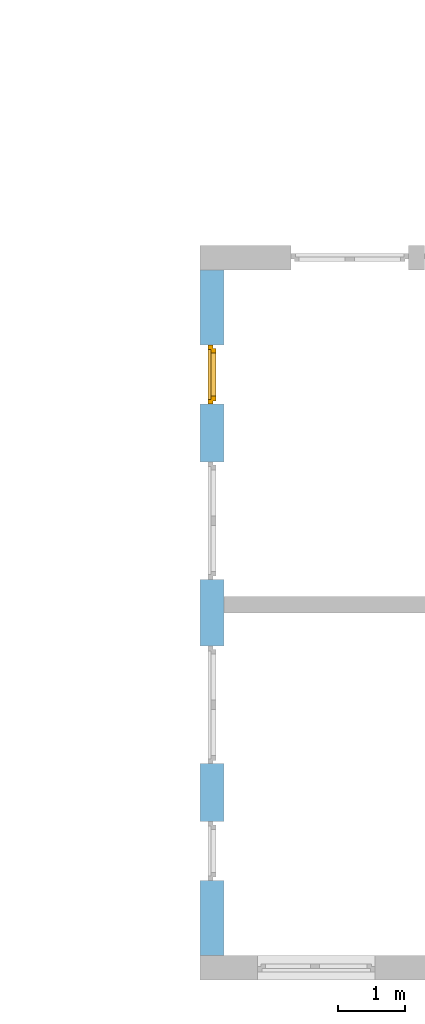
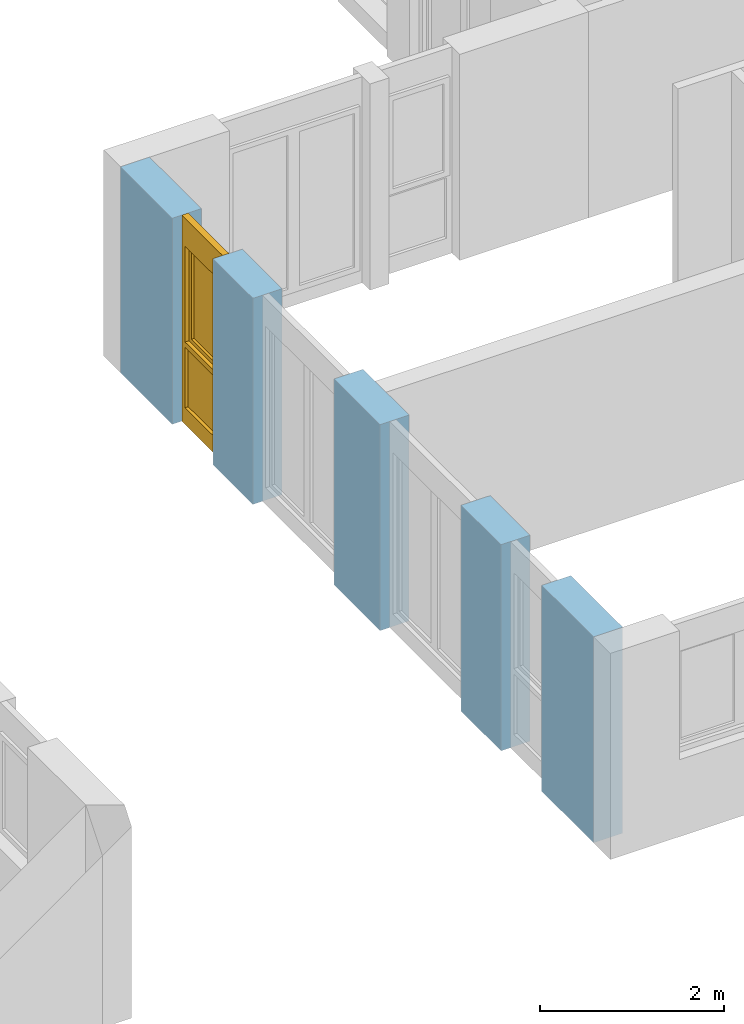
# One storey, part 16 of 41: 1 window, 4 openings, plus 1 element that does not belong to this part.
"""IFC2X3 building model written with IfcOpenShell, lengths in millimetres."""

from ifc_helpers import new_model, entity, si_unit, converted_unit, frame, frame_2d, origin, origin_with_axes, place, context, subcontext, project, spatial, rectangle, extrude, faceted_brep, material, layer, layer_set, layer_usage, type_object, element, fill, save


model = new_model("IFC2X3")

# Units and contexts
model_context = context("Model", 3, precision=1e-05, world=origin())
body_context = subcontext(model_context, "Body", "Model", "MODEL_VIEW")
ifc_project = project(units=[si_unit("LENGTHUNIT", "METRE", prefix="MILLI"), converted_unit("PLANEANGLEUNIT", "DEGREE", entity("IfcPlaneAngleMeasure", 0.0174532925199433), si_unit("PLANEANGLEUNIT", "RADIAN"), dimensions=[0, 0, 0, 0, 0, 0, 0]), si_unit("AREAUNIT", "SQUARE_METRE"), si_unit("VOLUMEUNIT", "CUBIC_METRE")], contexts=[model_context])

# Building, storey
building_placement = place(None, origin())
building = spatial("IfcBuilding", under=ifc_project, at=building_placement, Name="Gebäude", CompositionType="ELEMENT")
storey_placement = place(building_placement, frame((0.0, 0.0, -200.0), z_axis=(0.0, 0.0, 1.0), x_axis=(1.0, 0.0, 0.0)))
storey = spatial("IfcBuildingStorey", under=building, at=storey_placement, Name="EG.- Grundriss", CompositionType="ELEMENT", Elevation=-200.0)

# Wall, openings, window
ifc_material_1 = material(Name="Poroton")
ifc_layer = layer(ifc_material_1, 365.0)
ifc_layer_set = layer_set([ifc_layer])
ifc_layer_usage = layer_usage(ifc_layer_set, "AXIS2", "POSITIVE", 0.0)
wall_placement = place(storey_placement, frame((148357.7928067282, 135909.8877324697, 0.0), z_axis=(0.0, 0.0, 1.0), x_axis=(1.70032115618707e-14, -1.0, 0.0)))
wall = element("IfcWallStandardCase", 1, at=wall_placement, inside=storey, material=ifc_layer_usage, Name="<Unnamed Element>", context=body_context, shape_type="SweptSolid", body=[
    extrude(rectangle(XDim=10269.99999999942, YDim=365.0, at=frame_2d((5134.999999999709, 182.5), x_axis=(1.0, 0.0))), origin_with_axes(), (0.0, 0.0, 1.0), 2730.0),
])
opening_1_placement = place(wall_placement, frame((8259.999999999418, -9.487848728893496e-11, 0.0), z_axis=(0.0, 1.0, 0.0), x_axis=(0.0, 0.0, 1.0)))
element("IfcOpeningElement", 2, at=opening_1_placement, cuts=wall, Name="Fensteröffnung", ObjectType="Opening", context=body_context, shape_type="SweptSolid", body=[
    extrude(rectangle(XDim=2730.0, YDim=885.0, at=frame_2d((1365.0, 442.5), x_axis=(1.0, 0.0))), origin_with_axes(), (0.0, 0.0, 1.0), 365.0),
])
opening_2_placement = place(wall_placement, frame((5634.999999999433, -7.668859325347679e-11, 0.0), z_axis=(0.0, 1.0, 0.0), x_axis=(0.0, 0.0, 1.0)))
element("IfcOpeningElement", 3, at=opening_2_placement, cuts=wall, Name="Fensteröffnung", ObjectType="Opening", context=body_context, shape_type="SweptSolid", body=[
    extrude(rectangle(XDim=2730.0, YDim=1760.0, at=frame_2d((1365.0, 880.0), x_axis=(1.0, 0.0))), origin_with_axes(), (0.0, 0.0, 1.0), 365.0),
])
opening_3_placement = place(wall_placement, frame((2874.999999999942, -2.54658516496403e-11, 0.0), z_axis=(0.0, 1.0, 0.0), x_axis=(0.0, 0.0, 1.0)))
element("IfcOpeningElement", 4, at=opening_3_placement, cuts=wall, Name="Fensteröffnung", ObjectType="Opening", context=body_context, shape_type="SweptSolid", body=[
    extrude(rectangle(XDim=2730.0, YDim=1760.0, at=frame_2d((1365.0, 880.0), x_axis=(1.0, 0.0))), origin_with_axes(), (0.0, 0.0, 1.0), 365.0),
])
opening_4_placement = place(wall_placement, frame((1124.999999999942, -3.63797880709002e-12, 0.0), z_axis=(0.0, 1.0, 0.0), x_axis=(0.0, 0.0, 1.0)))
opening_4 = element("IfcOpeningElement", 5, at=opening_4_placement, cuts=wall, Name="Fensteröffnung", ObjectType="Opening", context=body_context, shape_type="SweptSolid", body=[
    extrude(rectangle(XDim=2730.0, YDim=885.0, at=frame_2d((1365.0, 442.5), x_axis=(1.0, 0.0))), origin_with_axes(), (0.0, 0.0, 1.0), 365.0),
])
ifc_material_2 = material()
window_style = type_object("IfcWindowStyle", Name="Fenster", ConstructionType="NOTDEFINED", OperationType="USERDEFINED", ParameterTakesPrecedence=False, Sizeable=False)
window_placement = place(opening_4_placement, frame((0.0, 0.0, 0.0), z_axis=(1.0, 0.0, 0.0), x_axis=(0.0, 1.0, 0.0)))
window = element("IfcWindow", 6, at=window_placement, inside=storey, type_object=window_style, material=ifc_material_2, Name="Fenster", OverallHeight=2730.0, OverallWidth=885.0, context=body_context, shape_type="Brep", body=[
    faceted_brep([(1.355358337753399e-12, 200.0000000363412, 2730.0), (1.355358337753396e-12, 200.000000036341, -2.449293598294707e-15), (69.9999999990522, 200.0000000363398, -2.449293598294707e-15), (69.9999999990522, 200.00000003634, 2730.0), (0.0, 120.0000000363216, 2.449293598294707e-15), (2.88912006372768e-27, 120.0000000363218, 2730.0), (69.99999999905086, 120.0000000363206, 2730.0), (69.99999999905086, 120.0000000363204, 2.449293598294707e-15), (1.355358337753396e-12, 200.000000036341, -2.449293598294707e-15), (1.355358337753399e-12, 200.0000000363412, 2730.0), (2.88912006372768e-27, 120.0000000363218, 2730.0), (0.0, 120.0000000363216, 2.449293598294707e-15), (69.9999999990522, 200.0000000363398, -2.449293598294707e-15), (1.355358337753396e-12, 200.000000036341, -2.449293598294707e-15), (0.0, 120.0000000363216, 2.449293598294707e-15), (69.99999999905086, 120.0000000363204, 2.449293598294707e-15), (69.9999999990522, 200.00000003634, 2730.0), (69.9999999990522, 200.0000000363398, -2.449293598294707e-15), (69.99999999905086, 120.0000000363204, 2.449293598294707e-15), (69.99999999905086, 120.0000000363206, 2730.0), (1.355358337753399e-12, 200.0000000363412, 2730.0), (69.9999999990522, 200.00000003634, 2730.0), (69.99999999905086, 120.0000000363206, 2730.0), (2.88912006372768e-27, 120.0000000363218, 2730.0)], [[[0, 1, 2, 3]], [[4, 5, 6, 7]], [[8, 9, 10, 11]], [[12, 13, 14, 15]], [[16, 17, 18, 19]], [[20, 21, 22, 23]]], orient=[[False], [False], [False], [False], [False], [False]]),
    faceted_brep([(815.0000000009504, 200.0000000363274, 2730.0), (815.0000000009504, 200.0000000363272, -2.449293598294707e-15), (885.0000000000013, 200.000000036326, -2.449293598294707e-15), (885.0000000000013, 200.0000000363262, 2730.0), (815.0000000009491, 120.0000000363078, 2.449293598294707e-15), (815.0000000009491, 120.0000000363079, 2730.0), (884.9999999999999, 120.0000000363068, 2730.0), (884.9999999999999, 120.0000000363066, 2.449293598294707e-15), (815.0000000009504, 200.0000000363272, -2.449293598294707e-15), (815.0000000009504, 200.0000000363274, 2730.0), (815.0000000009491, 120.0000000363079, 2730.0), (815.0000000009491, 120.0000000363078, 2.449293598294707e-15), (885.0000000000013, 200.000000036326, -2.449293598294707e-15), (815.0000000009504, 200.0000000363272, -2.449293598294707e-15), (815.0000000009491, 120.0000000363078, 2.449293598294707e-15), (884.9999999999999, 120.0000000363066, 2.449293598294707e-15), (885.0000000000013, 200.0000000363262, 2730.0), (885.0000000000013, 200.000000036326, -2.449293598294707e-15), (884.9999999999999, 120.0000000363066, 2.449293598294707e-15), (884.9999999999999, 120.0000000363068, 2730.0), (815.0000000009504, 200.0000000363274, 2730.0), (885.0000000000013, 200.0000000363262, 2730.0), (884.9999999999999, 120.0000000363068, 2730.0), (815.0000000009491, 120.0000000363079, 2730.0)], [[[0, 1, 2, 3]], [[4, 5, 6, 7]], [[8, 9, 10, 11]], [[12, 13, 14, 15]], [[16, 17, 18, 19]], [[20, 21, 22, 23]]], orient=[[False], [False], [False], [False], [False], [False]]),
    faceted_brep([(69.9999999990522, 200.0000000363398, 220.0), (69.9999999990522, 200.0000000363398, -2.449293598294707e-15), (815.0000000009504, 200.0000000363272, -2.449293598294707e-15), (815.0000000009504, 200.0000000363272, 220.0), (69.99999999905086, 120.0000000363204, 2.449293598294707e-15), (69.99999999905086, 120.0000000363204, 220.0), (815.0000000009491, 120.0000000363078, 220.0), (815.0000000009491, 120.0000000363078, 2.449293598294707e-15), (69.9999999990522, 200.0000000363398, -2.449293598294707e-15), (69.9999999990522, 200.0000000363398, 220.0), (69.99999999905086, 120.0000000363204, 220.0), (69.99999999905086, 120.0000000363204, 2.449293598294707e-15), (815.0000000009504, 200.0000000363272, -2.449293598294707e-15), (69.9999999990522, 200.0000000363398, -2.449293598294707e-15), (69.99999999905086, 120.0000000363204, 2.449293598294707e-15), (815.0000000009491, 120.0000000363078, 2.449293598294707e-15), (815.0000000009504, 200.0000000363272, 220.0), (815.0000000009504, 200.0000000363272, -2.449293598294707e-15), (815.0000000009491, 120.0000000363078, 2.449293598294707e-15), (815.0000000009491, 120.0000000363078, 220.0), (69.9999999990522, 200.0000000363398, 220.0), (815.0000000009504, 200.0000000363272, 220.0), (815.0000000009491, 120.0000000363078, 220.0), (69.99999999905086, 120.0000000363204, 220.0)], [[[0, 1, 2, 3]], [[4, 5, 6, 7]], [[8, 9, 10, 11]], [[12, 13, 14, 15]], [[16, 17, 18, 19]], [[20, 21, 22, 23]]], orient=[[False], [False], [False], [False], [False], [False]]),
    faceted_brep([(69.9999999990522, 200.00000003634, 2730.0), (69.9999999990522, 200.0000000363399, 2360.0), (815.0000000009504, 200.0000000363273, 2360.0), (815.0000000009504, 200.0000000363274, 2730.0), (69.99999999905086, 120.0000000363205, 2360.0), (69.99999999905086, 120.0000000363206, 2730.0), (815.0000000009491, 120.0000000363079, 2730.0), (815.0000000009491, 120.0000000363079, 2360.0), (69.9999999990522, 200.0000000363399, 2360.0), (69.9999999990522, 200.00000003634, 2730.0), (69.99999999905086, 120.0000000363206, 2730.0), (69.99999999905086, 120.0000000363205, 2360.0), (815.0000000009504, 200.0000000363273, 2360.0), (69.9999999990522, 200.0000000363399, 2360.0), (69.99999999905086, 120.0000000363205, 2360.0), (815.0000000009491, 120.0000000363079, 2360.0), (815.0000000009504, 200.0000000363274, 2730.0), (815.0000000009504, 200.0000000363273, 2360.0), (815.0000000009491, 120.0000000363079, 2360.0), (815.0000000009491, 120.0000000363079, 2730.0), (69.9999999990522, 200.00000003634, 2730.0), (815.0000000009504, 200.0000000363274, 2730.0), (815.0000000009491, 120.0000000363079, 2730.0), (69.99999999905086, 120.0000000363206, 2730.0)], [[[0, 1, 2, 3]], [[4, 5, 6, 7]], [[8, 9, 10, 11]], [[12, 13, 14, 15]], [[16, 17, 18, 19]], [[20, 21, 22, 23]]], orient=[[False], [False], [False], [False], [False], [False]]),
    faceted_brep([(69.9999999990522, 200.0000000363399, 1090.0), (69.9999999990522, 200.0000000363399, 1020.0), (815.0000000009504, 200.0000000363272, 1020.0), (815.0000000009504, 200.0000000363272, 1090.0), (69.99999999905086, 120.0000000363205, 1020.0), (69.99999999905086, 120.0000000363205, 1090.0), (815.0000000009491, 120.0000000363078, 1090.0), (815.0000000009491, 120.0000000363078, 1020.0), (69.9999999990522, 200.0000000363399, 1020.0), (69.9999999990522, 200.0000000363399, 1090.0), (69.99999999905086, 120.0000000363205, 1090.0), (69.99999999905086, 120.0000000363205, 1020.0), (815.0000000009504, 200.0000000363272, 1020.0), (69.9999999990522, 200.0000000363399, 1020.0), (69.99999999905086, 120.0000000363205, 1020.0), (815.0000000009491, 120.0000000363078, 1020.0), (815.0000000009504, 200.0000000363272, 1090.0), (815.0000000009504, 200.0000000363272, 1020.0), (815.0000000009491, 120.0000000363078, 1020.0), (815.0000000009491, 120.0000000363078, 1090.0), (69.9999999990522, 200.0000000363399, 1090.0), (815.0000000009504, 200.0000000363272, 1090.0), (815.0000000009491, 120.0000000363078, 1090.0), (69.99999999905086, 120.0000000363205, 1090.0)], [[[0, 1, 2, 3]], [[4, 5, 6, 7]], [[8, 9, 10, 11]], [[12, 13, 14, 15]], [[16, 17, 18, 19]], [[20, 21, 22, 23]]], orient=[[False], [False], [False], [False], [False], [False]]),
    faceted_brep([(69.99999999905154, 160.0000000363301, 220.0), (815.0000000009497, 160.0000000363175, 220.0), (815.0000000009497, 160.0000000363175, 1020.0), (69.99999999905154, 160.0000000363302, 1020.0), (69.99999999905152, 159.0000000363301, 220.0), (69.99999999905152, 159.0000000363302, 1020.0), (815.0000000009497, 159.0000000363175, 1020.0), (815.0000000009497, 159.0000000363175, 220.0), (69.99999999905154, 160.0000000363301, 220.0), (69.99999999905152, 159.0000000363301, 220.0), (815.0000000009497, 159.0000000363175, 220.0), (815.0000000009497, 160.0000000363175, 220.0), (815.0000000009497, 160.0000000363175, 220.0), (815.0000000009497, 159.0000000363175, 220.0), (815.0000000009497, 159.0000000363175, 1020.0), (815.0000000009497, 160.0000000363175, 1020.0), (815.0000000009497, 160.0000000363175, 1020.0), (815.0000000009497, 159.0000000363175, 1020.0), (69.99999999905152, 159.0000000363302, 1020.0), (69.99999999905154, 160.0000000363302, 1020.0), (69.99999999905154, 160.0000000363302, 1020.0), (69.99999999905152, 159.0000000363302, 1020.0), (69.99999999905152, 159.0000000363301, 220.0), (69.99999999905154, 160.0000000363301, 220.0)], [[[0, 1, 2, 3]], [[4, 5, 6, 7]], [[8, 9, 10, 11]], [[12, 13, 14, 15]], [[16, 17, 18, 19]], [[20, 21, 22, 23]]], orient=[[False], [False], [False], [False], [False], [False]]),
    faceted_brep([(49.99999999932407, 240.00000003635, 2380.0), (49.99999999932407, 240.0000000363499, 1070.0), (119.9999999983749, 240.0000000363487, 1070.0), (119.9999999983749, 240.0000000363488, 2380.0), (49.99999999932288, 170.0000000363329, 1070.0), (49.99999999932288, 170.000000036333, 2380.0), (119.9999999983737, 170.0000000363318, 2380.0), (119.9999999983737, 170.0000000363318, 1070.0), (49.99999999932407, 240.0000000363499, 1070.0), (49.99999999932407, 240.00000003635, 2380.0), (49.99999999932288, 170.000000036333, 2380.0), (49.99999999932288, 170.0000000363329, 1070.0), (119.9999999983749, 240.0000000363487, 1070.0), (49.99999999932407, 240.0000000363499, 1070.0), (49.99999999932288, 170.0000000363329, 1070.0), (119.9999999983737, 170.0000000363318, 1070.0), (119.9999999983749, 240.0000000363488, 2380.0), (119.9999999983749, 240.0000000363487, 1070.0), (119.9999999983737, 170.0000000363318, 1070.0), (119.9999999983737, 170.0000000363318, 2380.0), (49.99999999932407, 240.00000003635, 2380.0), (119.9999999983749, 240.0000000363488, 2380.0), (119.9999999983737, 170.0000000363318, 2380.0), (49.99999999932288, 170.000000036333, 2380.0)], [[[0, 1, 2, 3]], [[4, 5, 6, 7]], [[8, 9, 10, 11]], [[12, 13, 14, 15]], [[16, 17, 18, 19]], [[20, 21, 22, 23]]], orient=[[False], [False], [False], [False], [False], [False]]),
    faceted_brep([(765.000000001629, 240.0000000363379, 2380.0), (765.000000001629, 240.0000000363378, 1070.0), (835.0000000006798, 240.0000000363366, 1070.0), (835.0000000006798, 240.0000000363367, 2380.0), (765.0000000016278, 170.0000000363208, 1070.0), (765.0000000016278, 170.0000000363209, 2380.0), (835.0000000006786, 170.0000000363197, 2380.0), (835.0000000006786, 170.0000000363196, 1070.0), (765.000000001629, 240.0000000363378, 1070.0), (765.000000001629, 240.0000000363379, 2380.0), (765.0000000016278, 170.0000000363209, 2380.0), (765.0000000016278, 170.0000000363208, 1070.0), (835.0000000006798, 240.0000000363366, 1070.0), (765.000000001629, 240.0000000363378, 1070.0), (765.0000000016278, 170.0000000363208, 1070.0), (835.0000000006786, 170.0000000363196, 1070.0), (835.0000000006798, 240.0000000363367, 2380.0), (835.0000000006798, 240.0000000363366, 1070.0), (835.0000000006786, 170.0000000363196, 1070.0), (835.0000000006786, 170.0000000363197, 2380.0), (765.000000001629, 240.0000000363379, 2380.0), (835.0000000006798, 240.0000000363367, 2380.0), (835.0000000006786, 170.0000000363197, 2380.0), (765.0000000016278, 170.0000000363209, 2380.0)], [[[0, 1, 2, 3]], [[4, 5, 6, 7]], [[8, 9, 10, 11]], [[12, 13, 14, 15]], [[16, 17, 18, 19]], [[20, 21, 22, 23]]], orient=[[False], [False], [False], [False], [False], [False]]),
    faceted_brep([(119.9999999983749, 240.0000000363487, 1140.0), (119.9999999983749, 240.0000000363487, 1070.0), (765.000000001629, 240.0000000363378, 1070.0), (765.000000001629, 240.0000000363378, 1140.0), (119.9999999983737, 170.0000000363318, 1070.0), (119.9999999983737, 170.0000000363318, 1140.0), (765.0000000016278, 170.0000000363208, 1140.0), (765.0000000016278, 170.0000000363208, 1070.0), (119.9999999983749, 240.0000000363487, 1070.0), (119.9999999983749, 240.0000000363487, 1140.0), (119.9999999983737, 170.0000000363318, 1140.0), (119.9999999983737, 170.0000000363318, 1070.0), (765.000000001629, 240.0000000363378, 1070.0), (119.9999999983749, 240.0000000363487, 1070.0), (119.9999999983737, 170.0000000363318, 1070.0), (765.0000000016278, 170.0000000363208, 1070.0), (765.000000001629, 240.0000000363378, 1140.0), (765.000000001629, 240.0000000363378, 1070.0), (765.0000000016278, 170.0000000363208, 1070.0), (765.0000000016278, 170.0000000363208, 1140.0), (119.9999999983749, 240.0000000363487, 1140.0), (765.000000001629, 240.0000000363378, 1140.0), (765.0000000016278, 170.0000000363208, 1140.0), (119.9999999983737, 170.0000000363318, 1140.0)], [[[0, 1, 2, 3]], [[4, 5, 6, 7]], [[8, 9, 10, 11]], [[12, 13, 14, 15]], [[16, 17, 18, 19]], [[20, 21, 22, 23]]], orient=[[False], [False], [False], [False], [False], [False]]),
    faceted_brep([(119.9999999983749, 240.0000000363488, 2380.0), (119.9999999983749, 240.0000000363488, 2310.0), (765.000000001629, 240.0000000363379, 2310.0), (765.000000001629, 240.0000000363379, 2380.0), (119.9999999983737, 170.0000000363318, 2310.0), (119.9999999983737, 170.0000000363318, 2380.0), (765.0000000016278, 170.0000000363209, 2380.0), (765.0000000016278, 170.0000000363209, 2310.0), (119.9999999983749, 240.0000000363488, 2310.0), (119.9999999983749, 240.0000000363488, 2380.0), (119.9999999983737, 170.0000000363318, 2380.0), (119.9999999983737, 170.0000000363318, 2310.0), (765.000000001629, 240.0000000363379, 2310.0), (119.9999999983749, 240.0000000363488, 2310.0), (119.9999999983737, 170.0000000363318, 2310.0), (765.0000000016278, 170.0000000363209, 2310.0), (765.000000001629, 240.0000000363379, 2380.0), (765.000000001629, 240.0000000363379, 2310.0), (765.0000000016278, 170.0000000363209, 2310.0), (765.0000000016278, 170.0000000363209, 2380.0), (119.9999999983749, 240.0000000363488, 2380.0), (765.000000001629, 240.0000000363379, 2380.0), (765.0000000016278, 170.0000000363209, 2380.0), (119.9999999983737, 170.0000000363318, 2380.0)], [[[0, 1, 2, 3]], [[4, 5, 6, 7]], [[8, 9, 10, 11]], [[12, 13, 14, 15]], [[16, 17, 18, 19]], [[20, 21, 22, 23]]], orient=[[False], [False], [False], [False], [False], [False]]),
    faceted_brep([(119.9999999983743, 205.0000000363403, 1140.0), (765.0000000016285, 205.0000000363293, 1140.0), (765.0000000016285, 205.0000000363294, 2310.0), (119.9999999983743, 205.0000000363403, 2310.0), (119.9999999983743, 204.0000000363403, 1140.0), (119.9999999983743, 204.0000000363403, 2310.0), (765.0000000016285, 204.0000000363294, 2310.0), (765.0000000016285, 204.0000000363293, 1140.0), (119.9999999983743, 205.0000000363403, 1140.0), (119.9999999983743, 204.0000000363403, 1140.0), (765.0000000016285, 204.0000000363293, 1140.0), (765.0000000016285, 205.0000000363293, 1140.0), (765.0000000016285, 205.0000000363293, 1140.0), (765.0000000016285, 204.0000000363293, 1140.0), (765.0000000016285, 204.0000000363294, 2310.0), (765.0000000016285, 205.0000000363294, 2310.0), (765.0000000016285, 205.0000000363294, 2310.0), (765.0000000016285, 204.0000000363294, 2310.0), (119.9999999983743, 204.0000000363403, 2310.0), (119.9999999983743, 205.0000000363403, 2310.0), (119.9999999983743, 205.0000000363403, 2310.0), (119.9999999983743, 204.0000000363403, 2310.0), (119.9999999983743, 204.0000000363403, 1140.0), (119.9999999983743, 205.0000000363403, 1140.0)], [[[0, 1, 2, 3]], [[4, 5, 6, 7]], [[8, 9, 10, 11]], [[12, 13, 14, 15]], [[16, 17, 18, 19]], [[20, 21, 22, 23]]], orient=[[False], [False], [False], [False], [False], [False]]),
])
fill(opening_4, window)

save(model, "model.ifc")
